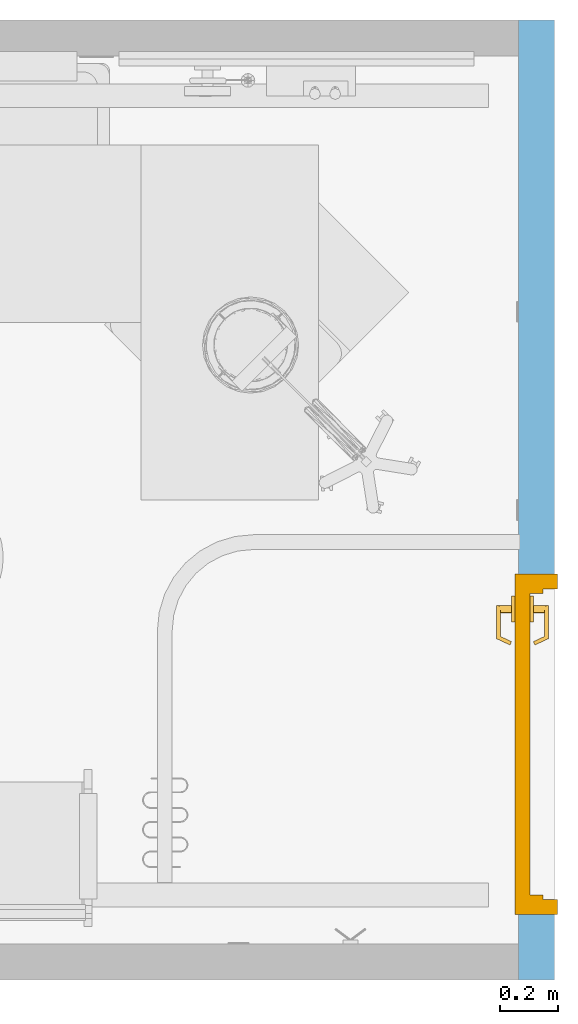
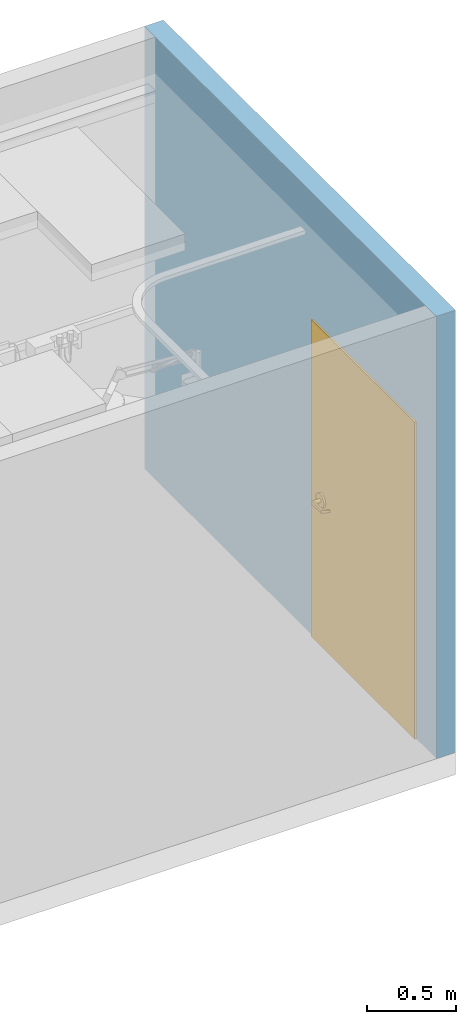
# One storey, part 2 of 8: 1 door, 1 opening, plus 1 element that does not belong to this part.
"""IFC2X3 building model written with IfcOpenShell, lengths in feet."""

from ifc_helpers import new_model, entity, si_unit, converted_unit, derived_unit, direction, frame, frame_2d, origin, place, context, subcontext, project, spatial, rectangle, extrude, faceted_brep, source, transform, mapped, material, layer, layer_set, layer_usage, type_object, type_shapes, element, fill, save


model = new_model("IFC2X3")

# Units and contexts
model_context = context("Model", 3, precision=0.0001, world=origin(), true_north=direction((6.12303176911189e-17, 1.0)))
body_context = subcontext(model_context, "Body", "Model", "MODEL_VIEW")
ifc_project = project(units=[converted_unit("LENGTHUNIT", "FOOT", entity("IfcRatioMeasure", 0.3048), si_unit("LENGTHUNIT", "METRE"), dimensions=[1, 0, 0, 0, 0, 0, 0]), converted_unit("AREAUNIT", "SQUARE FOOT", entity("IfcRatioMeasure", 0.09290304), si_unit("AREAUNIT", "SQUARE_METRE"), dimensions=[2, 0, 0, 0, 0, 0, 0]), converted_unit("VOLUMEUNIT", "CUBIC FOOT", entity("IfcRatioMeasure", 0.028316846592), si_unit("VOLUMEUNIT", "CUBIC_METRE"), dimensions=[3, 0, 0, 0, 0, 0, 0]), converted_unit("PLANEANGLEUNIT", "DEGREE", entity("IfcRatioMeasure", 0.0174532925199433), si_unit("PLANEANGLEUNIT", "RADIAN"), dimensions=[0, 0, 0, 0, 0, 0, 0]), si_unit("MASSUNIT", "GRAM", prefix="KILO"), derived_unit("MASSDENSITYUNIT", [(si_unit("MASSUNIT", "GRAM", prefix="KILO"), 1), (si_unit("LENGTHUNIT", "METRE"), -3)]), si_unit("TIMEUNIT", "SECOND"), si_unit("FREQUENCYUNIT", "HERTZ"), si_unit("THERMODYNAMICTEMPERATUREUNIT", "DEGREE_CELSIUS"), derived_unit("THERMALTRANSMITTANCEUNIT", [(si_unit("MASSUNIT", "GRAM", prefix="KILO"), 1), (si_unit("THERMODYNAMICTEMPERATUREUNIT", "KELVIN"), -1), (si_unit("TIMEUNIT", "SECOND"), -3)]), derived_unit("VOLUMETRICFLOWRATEUNIT", [(si_unit("LENGTHUNIT", "METRE"), 3), (si_unit("TIMEUNIT", "SECOND"), -1)]), si_unit("ELECTRICCURRENTUNIT", "AMPERE"), si_unit("ELECTRICVOLTAGEUNIT", "VOLT"), si_unit("POWERUNIT", "WATT"), si_unit("FORCEUNIT", "NEWTON"), si_unit("ILLUMINANCEUNIT", "LUX"), si_unit("LUMINOUSFLUXUNIT", "LUMEN"), si_unit("LUMINOUSINTENSITYUNIT", "CANDELA"), derived_unit("USERDEFINED", [(si_unit("MASSUNIT", "GRAM", prefix="KILO"), -1), (si_unit("LENGTHUNIT", "METRE"), -2), (si_unit("TIMEUNIT", "SECOND"), 3), (si_unit("LUMINOUSFLUXUNIT", "LUMEN"), 1)]), derived_unit("LINEARVELOCITYUNIT", [(si_unit("LENGTHUNIT", "METRE"), 1), (si_unit("TIMEUNIT", "SECOND"), -1)]), si_unit("PRESSUREUNIT", "PASCAL"), derived_unit("USERDEFINED", [(si_unit("LENGTHUNIT", "METRE"), -2), (si_unit("MASSUNIT", "GRAM", prefix="KILO"), 1), (si_unit("TIMEUNIT", "SECOND"), -2)])], contexts=[model_context])

# Site, building, storey
site_placement = place(None, origin())
site = spatial("IfcSite", under=ifc_project, at=site_placement, Name="Default", CompositionType="ELEMENT")
building_placement = place(site_placement, origin())
building = spatial("IfcBuilding", under=site, at=building_placement, Name="OUTPATIENT / PACT CLINIC (Ch. 265)", CompositionType="ELEMENT")
storey_placement = place(building_placement, origin())
storey = spatial("IfcBuildingStorey", under=building, at=storey_placement, Name="DATUM", CompositionType="ELEMENT", Elevation=0.0)

# Wall, opening, door
ifc_material = material(Name="<Unnamed>")
ifc_layer = layer(ifc_material, 0.40625)
ifc_layer_set = layer_set([ifc_layer], Name="Basic Wall:Interior - 4 7/8\"")
ifc_layer_usage = layer_usage(ifc_layer_set, "AXIS2", "NEGATIVE", 0.203125)
wall_type = type_object("IfcWallType", Name="Basic Wall:Interior - 4 7/8\"", PredefinedType="STANDARD", material=ifc_layer_set)
wall_placement = place(storey_placement, frame((-194.882804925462, -850.470556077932, 0.0), z_axis=(0.0, 0.0, 1.0), x_axis=(0.0, -1.0, 0.0)))
wall = element("IfcWallStandardCase", 1, at=wall_placement, inside=storey, type_object=wall_type, material=ifc_layer_usage, Name="Basic Wall:Interior - 4 7/8\"", ObjectType="Basic Wall:Interior - 4 7/8\"", context=body_context, shape_type="SweptSolid", body=[
    extrude(rectangle(XDim=10.8125, YDim=0.40625, at=frame_2d((5.40625, 9.04831765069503e-15), x_axis=(-1.0, 0.0))), origin(), (0.0, 0.0, 1.0), 10.0),
])
opening_placement = place(wall_placement, frame((10.0729166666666, 0.203125, 0.0)))
opening = element("IfcOpeningElement", 2, at=opening_placement, cuts=wall, Name="Single - Flush:42\" x 84\":1", ObjectType="Opening", context=body_context, shape_type="SweptSolid", body=[
    extrude(rectangle(XDim=3.83333333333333, YDim=7.16666666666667, at=frame_2d((3.58333333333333, 1.91666666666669), x_axis=(0.0, -1.0))), frame((0.0, 0.0, 0.0), z_axis=(0.0, -1.0, 0.0), x_axis=(0.0, 0.0, 1.0)), (0.0, 0.0, 1.0), 0.40625),
])
door_style = type_object("IfcDoorStyle", Name="42\" x 84\"", ConstructionType="NOTDEFINED", OperationType="NOTDEFINED", ParameterTakesPrecedence=False, Sizeable=False)
shared_shape = source(origin(), body_context, "Body", "Brep", [
    faceted_brep([(3.12432039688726, 0.123080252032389, 3.36458333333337), (3.1307112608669, 0.109375, 3.36458333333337), (3.1307112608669, 0.109375, 3.30208333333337), (3.12432039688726, 0.12308025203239, 3.30208333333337), (3.07149311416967, 0.23636872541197, 3.31250000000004), (3.07149311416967, 0.23636872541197, 3.3541666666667), (3.03373028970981, 0.218759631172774, 3.31250000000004), (3.0865575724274, 0.105471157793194, 3.30208333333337), (3.10416666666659, 0.0677083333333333, 3.30208333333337), (3.10416666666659, 0.067708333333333, 3.36458333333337), (3.0865575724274, 0.105471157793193, 3.36458333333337), (3.03373028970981, 0.218759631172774, 3.3541666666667), (3.10416666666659, 0.109375, 3.30208333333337), (3.10416666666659, 0.109375, 3.36458333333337), (3.43619600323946, 0.0677083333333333, 3.29168707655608), (3.44639661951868, 0.0677083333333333, 3.29262754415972), (3.45605949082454, 0.0677083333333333, 3.29602842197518), (3.46460055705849, 0.0677083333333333, 3.3016841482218), (3.47150356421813, 0.0677083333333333, 3.30925286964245), (3.47635126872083, 0.0677083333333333, 3.31827710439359), (3.47885065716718, 0.0677083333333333, 3.32821139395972), (3.47885065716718, 0.0677083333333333, 3.33845527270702), (3.47635126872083, 0.0677083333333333, 3.34838956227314), (3.47150356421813, 0.0677083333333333, 3.35741379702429), (3.46460055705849, 0.0677083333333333, 3.36498251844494), (3.45605949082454, 0.0677083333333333, 3.37063824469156), (3.44639661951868, 0.0677083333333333, 3.37403912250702), (3.43619600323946, 0.0677083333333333, 3.37497959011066), (3.42566985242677, 0.109375, 3.29338137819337), (3.43619600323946, 0.109375, 3.29168707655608), (3.43619600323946, 0.109375, 3.37497959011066), (3.42566985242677, 0.109375, 3.37328528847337), (3.41591827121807, 0.109375, 3.36897516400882), (3.40757973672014, 0.109375, 3.36233141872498), (3.40120020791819, 0.109375, 3.35378904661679), (3.3971973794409, 0.109375, 3.34390735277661), (3.39583333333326, 0.109375, 3.33333333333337), (3.3971973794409, 0.109375, 3.32275931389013), (3.40120020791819, 0.109375, 3.31287762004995), (3.40757973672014, 0.109375, 3.30433524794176), (3.41591827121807, 0.109375, 3.29769150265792), (3.44568224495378, 0.109375, 3.29247795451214), (3.45473886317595, 0.109375, 3.2954000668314), (3.46289592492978, 0.109375, 3.30030065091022), (3.46972778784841, 0.109375, 3.30692347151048), (3.47487870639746, 0.109375, 3.31492291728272), (3.47808054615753, 0.109375, 3.32388185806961), (3.47916666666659, 0.109375, 3.33333333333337), (3.47808054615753, 0.109375, 3.34278480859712), (3.47487870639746, 0.109375, 3.35174374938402), (3.46972778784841, 0.109375, 3.35974319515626), (3.46289592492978, 0.109375, 3.36636601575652), (3.45473886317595, 0.109375, 3.37126659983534), (3.44568224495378, 0.109375, 3.3741887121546), (3.47774690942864, 0.234375, 3.34411746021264), (3.47916666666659, 0.234375, 3.33333333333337), (3.47358439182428, 0.234375, 3.3541666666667), (3.46696278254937, 0.234375, 3.36279611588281), (3.45833333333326, 0.234375, 3.36941772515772), (3.4482841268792, 0.234375, 3.37358024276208), (3.43749999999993, 0.234375, 3.37500000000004), (3.42671587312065, 0.234375, 3.37358024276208), (3.41666666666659, 0.234375, 3.36941772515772), (3.40803721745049, 0.234375, 3.36279611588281), (3.40141560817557, 0.234375, 3.3541666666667), (3.39725309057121, 0.234375, 3.34411746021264), (3.39583333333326, 0.234375, 3.33333333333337), (3.39725309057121, 0.234375, 3.3225492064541), (3.40141560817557, 0.234375, 3.31250000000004), (3.40803721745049, 0.234375, 3.30387055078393), (3.41666666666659, 0.234375, 3.29724894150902), (3.42671587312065, 0.234375, 3.29308642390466), (3.43749999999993, 0.234375, 3.2916666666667), (3.4482841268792, 0.234375, 3.29308642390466), (3.45833333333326, 0.234375, 3.29724894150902), (3.46696278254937, 0.234375, 3.30387055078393), (3.47358439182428, 0.234375, 3.31250000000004), (3.47774690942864, 0.234375, 3.3225492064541), (3.36458333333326, 0.234375, 3.4596287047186), (3.33438026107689, 0.234375, 3.43645307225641), (3.39975555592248, 0.234375, 3.47419751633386), (3.43749999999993, 0.234375, 3.4791666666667), (3.47524444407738, 0.234375, 3.47419751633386), (3.51041666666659, 0.234375, 3.4596287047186), (3.54061973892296, 0.234375, 3.43645307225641), (3.56379537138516, 0.234375, 3.40625000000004), (3.57836418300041, 0.234375, 3.37107777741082), (3.58333333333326, 0.234375, 3.33333333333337), (3.57836418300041, 0.234375, 3.29558888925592), (3.56379537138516, 0.234375, 3.2604166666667), (3.54061973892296, 0.234375, 3.23021359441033), (3.51041666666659, 0.234375, 3.20703796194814), (3.47524444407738, 0.234375, 3.19246915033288), (3.43749999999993, 0.234375, 3.18750000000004), (3.39975555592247, 0.234375, 3.19246915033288), (3.36458333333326, 0.234375, 3.20703796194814), (3.33438026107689, 0.234375, 3.23021359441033), (3.3112046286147, 0.234375, 3.2604166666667), (3.29663581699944, 0.234375, 3.29558888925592), (3.29166666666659, 0.234375, 3.33333333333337), (3.29663581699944, 0.234375, 3.37107777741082), (3.3112046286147, 0.234375, 3.40625000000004), (3.33438026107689, 0.276041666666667, 3.23021359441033), (3.3112046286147, 0.276041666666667, 3.2604166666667), (3.29663581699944, 0.276041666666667, 3.29558888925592), (3.29166666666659, 0.276041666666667, 3.33333333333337), (3.29663581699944, 0.276041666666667, 3.37107777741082), (3.3112046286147, 0.276041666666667, 3.40625000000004), (3.33438026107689, 0.276041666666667, 3.43645307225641), (3.36458333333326, 0.276041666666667, 3.4596287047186), (3.39975555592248, 0.276041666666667, 3.47419751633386), (3.43749999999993, 0.276041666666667, 3.4791666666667), (3.47524444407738, 0.276041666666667, 3.47419751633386), (3.51041666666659, 0.276041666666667, 3.4596287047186), (3.54061973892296, 0.276041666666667, 3.43645307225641), (3.56379537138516, 0.276041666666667, 3.40625000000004), (3.57836418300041, 0.276041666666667, 3.37107777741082), (3.58333333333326, 0.276041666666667, 3.33333333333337), (3.57836418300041, 0.276041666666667, 3.29558888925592), (3.56379537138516, 0.276041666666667, 3.2604166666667), (3.54061973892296, 0.276041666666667, 3.23021359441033), (3.51041666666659, 0.276041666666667, 3.20703796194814), (3.47524444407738, 0.276041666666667, 3.19246915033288), (3.43749999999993, 0.276041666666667, 3.18750000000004), (3.39975555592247, 0.276041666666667, 3.19246915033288), (3.36458333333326, 0.276041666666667, 3.20703796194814)], [[[0, 1, 2, 3, 4, 5]], [[6, 7, 8, 9, 10, 11]], [[3, 2, 12, 8, 7]], [[4, 3, 7, 6]], [[5, 4, 6, 11]], [[0, 5, 11, 10]], [[1, 0, 10, 9, 13]], [[9, 8, 14, 15, 16, 17, 18, 19, 20, 21, 22, 23, 24, 25, 26, 27]], [[28, 29, 12, 2, 1, 13, 30, 31, 32, 33, 34, 35, 36, 37, 38, 39, 40]], [[14, 8, 12, 29]], [[41, 14, 29]], [[42, 15, 41]], [[17, 43, 44]], [[44, 45, 18]], [[42, 43, 16]], [[46, 19, 45]], [[42, 16, 15]], [[15, 14, 41]], [[19, 18, 45]], [[17, 44, 18]], [[17, 16, 43]], [[20, 19, 46]], [[46, 47, 20]], [[48, 21, 47]], [[49, 22, 48]], [[24, 50, 51]], [[51, 52, 25]], [[49, 50, 23]], [[53, 26, 52]], [[24, 23, 50]], [[23, 22, 49]], [[22, 21, 48]], [[27, 26, 53]], [[25, 52, 26]], [[25, 24, 51]], [[27, 53, 30]], [[47, 21, 20]], [[9, 27, 30, 13]], [[54, 48, 55]], [[56, 49, 54]], [[51, 57, 58]], [[56, 57, 50]], [[52, 58, 59]], [[54, 49, 48]], [[48, 47, 55]], [[52, 51, 58]], [[50, 57, 51]], [[50, 49, 56]], [[53, 52, 59]], [[59, 60, 53]], [[61, 30, 60]], [[62, 31, 61]], [[33, 63, 64]], [[64, 65, 34]], [[62, 63, 32]], [[66, 35, 65]], [[62, 32, 31]], [[31, 30, 61]], [[35, 34, 65]], [[33, 64, 34]], [[33, 32, 63]], [[36, 35, 66]], [[60, 30, 53]], [[67, 37, 66]], [[68, 38, 67]], [[40, 69, 70]], [[68, 69, 39]], [[28, 70, 71]], [[67, 38, 37]], [[37, 36, 66]], [[28, 40, 70]], [[39, 69, 40]], [[39, 38, 68]], [[29, 28, 71]], [[71, 72, 29]], [[73, 41, 72]], [[74, 42, 73]], [[44, 75, 76]], [[76, 77, 45]], [[74, 75, 43]], [[55, 46, 77]], [[74, 43, 42]], [[42, 41, 73]], [[46, 45, 77]], [[44, 76, 45]], [[44, 43, 75]], [[47, 46, 55]], [[72, 41, 29]], [[62, 61, 78]], [[79, 62, 78]], [[62, 79, 63]], [[61, 80, 78]], [[80, 61, 60]], [[80, 60, 81]], [[59, 81, 60]], [[81, 59, 82]], [[59, 58, 82]], [[83, 82, 58]], [[57, 83, 58]], [[83, 57, 84]], [[56, 84, 57]], [[85, 84, 56]], [[54, 85, 56]], [[86, 85, 54]], [[86, 54, 55]], [[86, 55, 87]], [[87, 55, 77]], [[87, 77, 88]], [[88, 77, 76]], [[88, 76, 89]], [[90, 89, 76]], [[90, 76, 75]], [[75, 91, 90]], [[75, 74, 91]], [[92, 91, 74]], [[73, 92, 74]], [[73, 93, 92]], [[93, 73, 72]], [[72, 94, 93]], [[71, 94, 72]], [[94, 71, 95]], [[70, 95, 71]], [[96, 95, 70]], [[96, 70, 69]], [[96, 69, 97]], [[97, 69, 68]], [[97, 68, 98]], [[67, 98, 68]], [[99, 98, 67]], [[67, 66, 99]], [[66, 100, 99]], [[100, 66, 65]], [[100, 65, 101]], [[65, 64, 101]], [[63, 101, 64]], [[79, 101, 63]], [[102, 103, 104, 105, 106, 107, 108, 109, 110, 111, 112, 113, 114, 115, 116, 117, 118, 119, 120, 121, 122, 123, 124, 125]], [[116, 86, 87, 117]], [[115, 85, 86, 116]], [[83, 84, 114, 113]], [[115, 114, 84, 85]], [[82, 83, 113, 112]], [[81, 82, 112, 111]], [[110, 80, 81, 111]], [[109, 78, 80, 110]], [[101, 79, 108, 107]], [[109, 108, 79, 78]], [[100, 101, 107, 106]], [[99, 100, 106, 105]], [[104, 98, 99, 105]], [[103, 97, 98, 104]], [[95, 96, 102, 125]], [[103, 102, 96, 97]], [[94, 95, 125, 124]], [[93, 94, 124, 123]], [[122, 92, 93, 123]], [[121, 91, 92, 122]], [[89, 90, 120, 119]], [[121, 120, 90, 91]], [[88, 89, 119, 118]], [[87, 88, 118, 117]]]),
    faceted_brep([(3.12432039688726, 0.595669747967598, 3.30208333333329), (3.13071126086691, 0.609374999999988, 3.30208333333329), (3.13071126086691, 0.609374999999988, 3.36458333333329), (3.12432039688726, 0.595669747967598, 3.36458333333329), (3.07149311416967, 0.482381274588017, 3.35416666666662), (3.07149311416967, 0.482381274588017, 3.31249999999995), (3.03373028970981, 0.499990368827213, 3.35416666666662), (3.0865575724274, 0.613278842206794, 3.36458333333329), (3.10416666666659, 0.651041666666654, 3.36458333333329), (3.10416666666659, 0.651041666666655, 3.30208333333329), (3.0865575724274, 0.613278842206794, 3.30208333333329), (3.03373028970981, 0.499990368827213, 3.31249999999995), (3.10416666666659, 0.609374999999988, 3.36458333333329), (3.10416666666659, 0.609374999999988, 3.30208333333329), (3.43619600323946, 0.651041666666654, 3.37497959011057), (3.44639661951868, 0.651041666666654, 3.37403912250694), (3.45605949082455, 0.651041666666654, 3.37063824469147), (3.46460055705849, 0.651041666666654, 3.36498251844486), (3.47150356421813, 0.651041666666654, 3.35741379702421), (3.47635126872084, 0.651041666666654, 3.34838956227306), (3.47885065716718, 0.651041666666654, 3.33845527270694), (3.47885065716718, 0.651041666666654, 3.32821139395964), (3.47635126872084, 0.651041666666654, 3.31827710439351), (3.47150356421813, 0.651041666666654, 3.30925286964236), (3.4646005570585, 0.651041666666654, 3.30168414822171), (3.45605949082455, 0.651041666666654, 3.2960284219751), (3.44639661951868, 0.651041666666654, 3.29262754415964), (3.43619600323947, 0.651041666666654, 3.291687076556), (3.42566985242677, 0.609374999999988, 3.37328528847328), (3.43619600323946, 0.609374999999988, 3.37497959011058), (3.43619600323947, 0.609374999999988, 3.291687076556), (3.42566985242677, 0.609374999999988, 3.29338137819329), (3.41591827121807, 0.609374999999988, 3.29769150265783), (3.40757973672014, 0.609374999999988, 3.30433524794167), (3.40120020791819, 0.609374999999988, 3.31287762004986), (3.3971973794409, 0.609374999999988, 3.32275931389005), (3.39583333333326, 0.609374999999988, 3.33333333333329), (3.3971973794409, 0.609374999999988, 3.34390735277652), (3.40120020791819, 0.609374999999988, 3.35378904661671), (3.40757973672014, 0.609374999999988, 3.3623314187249), (3.41591827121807, 0.609374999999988, 3.36897516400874), (3.44568224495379, 0.609374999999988, 3.37418871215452), (3.45473886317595, 0.609374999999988, 3.37126659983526), (3.46289592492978, 0.609374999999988, 3.36636601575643), (3.46972778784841, 0.609374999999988, 3.35974319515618), (3.47487870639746, 0.609374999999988, 3.35174374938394), (3.47808054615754, 0.609374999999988, 3.34278480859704), (3.47916666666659, 0.609374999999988, 3.33333333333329), (3.47808054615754, 0.609374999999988, 3.32388185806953), (3.47487870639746, 0.609374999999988, 3.31492291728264), (3.46972778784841, 0.609374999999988, 3.30692347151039), (3.46289592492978, 0.609374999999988, 3.30030065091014), (3.45473886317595, 0.609374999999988, 3.29540006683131), (3.44568224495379, 0.609374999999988, 3.29247795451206), (3.47774690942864, 0.484374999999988, 3.32254920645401), (3.47916666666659, 0.484374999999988, 3.33333333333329), (3.47358439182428, 0.484374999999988, 3.31249999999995), (3.46696278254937, 0.484374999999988, 3.30387055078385), (3.45833333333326, 0.484374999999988, 3.29724894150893), (3.4482841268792, 0.484374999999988, 3.29308642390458), (3.43749999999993, 0.484374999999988, 3.29166666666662), (3.42671587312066, 0.484374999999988, 3.29308642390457), (3.41666666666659, 0.484374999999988, 3.29724894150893), (3.40803721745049, 0.484374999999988, 3.30387055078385), (3.40141560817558, 0.484374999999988, 3.31249999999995), (3.39725309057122, 0.484374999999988, 3.32254920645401), (3.39583333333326, 0.484374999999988, 3.33333333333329), (3.39725309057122, 0.484374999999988, 3.34411746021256), (3.40141560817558, 0.484374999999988, 3.35416666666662), (3.40803721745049, 0.484374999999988, 3.36279611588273), (3.41666666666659, 0.484374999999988, 3.36941772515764), (3.42671587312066, 0.484374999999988, 3.373580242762), (3.43749999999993, 0.484374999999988, 3.37499999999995), (3.4482841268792, 0.484374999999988, 3.373580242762), (3.45833333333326, 0.484374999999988, 3.36941772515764), (3.46696278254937, 0.484374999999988, 3.36279611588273), (3.47358439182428, 0.484374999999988, 3.35416666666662), (3.47774690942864, 0.484374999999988, 3.34411746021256), (3.36458333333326, 0.484374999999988, 3.20703796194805), (3.33438026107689, 0.484374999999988, 3.23021359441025), (3.39975555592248, 0.484374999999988, 3.1924691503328), (3.43749999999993, 0.484374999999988, 3.18749999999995), (3.47524444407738, 0.484374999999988, 3.1924691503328), (3.51041666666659, 0.484374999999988, 3.20703796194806), (3.54061973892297, 0.484374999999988, 3.23021359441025), (3.56379537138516, 0.484374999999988, 3.26041666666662), (3.57836418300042, 0.484374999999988, 3.29558888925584), (3.58333333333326, 0.484374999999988, 3.33333333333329), (3.57836418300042, 0.484374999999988, 3.37107777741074), (3.56379537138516, 0.484374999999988, 3.40624999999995), (3.54061973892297, 0.484374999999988, 3.43645307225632), (3.51041666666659, 0.484374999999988, 3.45962870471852), (3.47524444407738, 0.484374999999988, 3.47419751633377), (3.43749999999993, 0.484374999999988, 3.47916666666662), (3.39975555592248, 0.484374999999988, 3.47419751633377), (3.36458333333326, 0.484374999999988, 3.45962870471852), (3.33438026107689, 0.484374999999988, 3.43645307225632), (3.3112046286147, 0.484374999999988, 3.40624999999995), (3.29663581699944, 0.484374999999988, 3.37107777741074), (3.29166666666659, 0.484374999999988, 3.33333333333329), (3.29663581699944, 0.484374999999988, 3.29558888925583), (3.3112046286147, 0.484374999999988, 3.26041666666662), (3.33438026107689, 0.442708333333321, 3.43645307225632), (3.3112046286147, 0.442708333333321, 3.40624999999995), (3.29663581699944, 0.442708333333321, 3.37107777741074), (3.29166666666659, 0.442708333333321, 3.33333333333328), (3.29663581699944, 0.442708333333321, 3.29558888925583), (3.3112046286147, 0.442708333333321, 3.26041666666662), (3.33438026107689, 0.442708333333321, 3.23021359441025), (3.36458333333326, 0.442708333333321, 3.20703796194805), (3.39975555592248, 0.442708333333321, 3.1924691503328), (3.43749999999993, 0.442708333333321, 3.18749999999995), (3.47524444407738, 0.442708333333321, 3.1924691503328), (3.51041666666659, 0.442708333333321, 3.20703796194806), (3.54061973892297, 0.442708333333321, 3.23021359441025), (3.56379537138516, 0.442708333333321, 3.26041666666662), (3.57836418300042, 0.442708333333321, 3.29558888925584), (3.58333333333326, 0.442708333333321, 3.33333333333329), (3.57836418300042, 0.442708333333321, 3.37107777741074), (3.56379537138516, 0.442708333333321, 3.40624999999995), (3.54061973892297, 0.442708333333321, 3.43645307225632), (3.51041666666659, 0.442708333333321, 3.45962870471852), (3.47524444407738, 0.442708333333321, 3.47419751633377), (3.43749999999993, 0.442708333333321, 3.47916666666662), (3.39975555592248, 0.442708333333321, 3.47419751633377), (3.36458333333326, 0.442708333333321, 3.45962870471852)], [[[0, 1, 2, 3, 4, 5]], [[6, 7, 8, 9, 10, 11]], [[3, 2, 12, 8, 7]], [[4, 3, 7, 6]], [[5, 4, 6, 11]], [[0, 5, 11, 10]], [[1, 0, 10, 9, 13]], [[9, 8, 14, 15, 16, 17, 18, 19, 20, 21, 22, 23, 24, 25, 26, 27]], [[28, 29, 12, 2, 1, 13, 30, 31, 32, 33, 34, 35, 36, 37, 38, 39, 40]], [[14, 8, 12, 29]], [[41, 14, 29]], [[42, 15, 41]], [[17, 43, 44]], [[44, 45, 18]], [[42, 43, 16]], [[46, 19, 45]], [[42, 16, 15]], [[15, 14, 41]], [[19, 18, 45]], [[17, 44, 18]], [[17, 16, 43]], [[20, 19, 46]], [[46, 47, 20]], [[48, 21, 47]], [[49, 22, 48]], [[24, 50, 51]], [[51, 52, 25]], [[49, 50, 23]], [[53, 26, 52]], [[24, 23, 50]], [[23, 22, 49]], [[22, 21, 48]], [[27, 26, 53]], [[25, 52, 26]], [[25, 24, 51]], [[27, 53, 30]], [[47, 21, 20]], [[9, 27, 30, 13]], [[54, 48, 55]], [[56, 49, 54]], [[51, 57, 58]], [[56, 57, 50]], [[52, 58, 59]], [[54, 49, 48]], [[48, 47, 55]], [[52, 51, 58]], [[50, 57, 51]], [[50, 49, 56]], [[53, 52, 59]], [[59, 60, 53]], [[61, 30, 60]], [[62, 31, 61]], [[33, 63, 64]], [[64, 65, 34]], [[62, 63, 32]], [[66, 35, 65]], [[62, 32, 31]], [[31, 30, 61]], [[35, 34, 65]], [[33, 64, 34]], [[33, 32, 63]], [[36, 35, 66]], [[60, 30, 53]], [[67, 37, 66]], [[68, 38, 67]], [[40, 69, 70]], [[68, 69, 39]], [[28, 70, 71]], [[67, 38, 37]], [[37, 36, 66]], [[28, 40, 70]], [[39, 69, 40]], [[39, 38, 68]], [[29, 28, 71]], [[71, 72, 29]], [[73, 41, 72]], [[74, 42, 73]], [[44, 75, 76]], [[76, 77, 45]], [[74, 75, 43]], [[55, 46, 77]], [[74, 43, 42]], [[42, 41, 73]], [[46, 45, 77]], [[44, 76, 45]], [[44, 43, 75]], [[47, 46, 55]], [[72, 41, 29]], [[62, 61, 78]], [[79, 62, 78]], [[62, 79, 63]], [[61, 80, 78]], [[80, 61, 60]], [[80, 60, 81]], [[59, 81, 60]], [[81, 59, 82]], [[59, 58, 82]], [[83, 82, 58]], [[57, 83, 58]], [[83, 57, 84]], [[56, 84, 57]], [[85, 84, 56]], [[54, 85, 56]], [[86, 85, 54]], [[86, 54, 55]], [[86, 55, 87]], [[87, 55, 77]], [[87, 77, 88]], [[88, 77, 76]], [[88, 76, 89]], [[90, 89, 76]], [[90, 76, 75]], [[75, 91, 90]], [[75, 74, 91]], [[92, 91, 74]], [[73, 92, 74]], [[73, 93, 92]], [[93, 73, 72]], [[72, 94, 93]], [[71, 94, 72]], [[94, 71, 95]], [[70, 95, 71]], [[96, 95, 70]], [[96, 70, 69]], [[96, 69, 97]], [[97, 69, 68]], [[97, 68, 98]], [[67, 98, 68]], [[99, 98, 67]], [[67, 66, 99]], [[66, 100, 99]], [[100, 66, 65]], [[100, 65, 101]], [[65, 64, 101]], [[63, 101, 64]], [[79, 101, 63]], [[102, 103, 104, 105, 106, 107, 108, 109, 110, 111, 112, 113, 114, 115, 116, 117, 118, 119, 120, 121, 122, 123, 124, 125]], [[116, 86, 87, 117]], [[115, 85, 86, 116]], [[83, 84, 114, 113]], [[115, 114, 84, 85]], [[82, 83, 113, 112]], [[81, 82, 112, 111]], [[110, 80, 81, 111]], [[109, 78, 80, 110]], [[101, 79, 108, 107]], [[109, 108, 79, 78]], [[100, 101, 107, 106]], [[99, 100, 106, 105]], [[104, 98, 99, 105]], [[103, 97, 98, 104]], [[95, 96, 102, 125]], [[103, 102, 96, 97]], [[94, 95, 125, 124]], [[93, 94, 124, 123]], [[122, 92, 93, 123]], [[121, 91, 92, 122]], [[89, 90, 120, 119]], [[121, 120, 90, 91]], [[88, 89, 119, 118]], [[87, 88, 118, 117]]]),
    faceted_brep([(0.16666666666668, 0.442708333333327, 7.0), (3.66666666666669, 0.442708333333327, 7.0), (3.66666666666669, 0.442708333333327, 0.0), (0.16666666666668, 0.442708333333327, 0.0), (0.16666666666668, 0.276041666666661, 7.0), (0.16666666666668, 0.276041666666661, 0.0), (3.66666666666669, 0.276041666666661, 0.0), (3.66666666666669, 0.276041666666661, 7.0)], [[[0, 1, 2, 3]], [[4, 5, 6, 7]], [[1, 0, 4, 7]], [[2, 1, 7, 6]], [[3, 2, 6, 5]], [[0, 3, 5, 4]]]),
    faceted_brep([(0.166666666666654, 0.442708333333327, 0.0), (0.166666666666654, 0.276041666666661, 0.0), (0.218749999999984, 0.276041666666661, 0.0), (0.218749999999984, 0.130208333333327, 0.0), (0.166666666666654, 0.130208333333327, 0.0), (0.166666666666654, -0.0364583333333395, 0.0), (0.0, -0.0364583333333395, 0.0), (0.0, 0.442708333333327, 0.0), (0.166666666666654, 0.442708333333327, 7.0), (0.166666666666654, 0.276041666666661, 7.0), (3.66666666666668, 0.276041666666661, 7.0), (3.66666666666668, 0.276041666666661, 0.0), (3.61458333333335, 0.27604166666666, 0.0), (3.61458333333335, 0.276041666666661, 6.94791666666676), (0.218749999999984, 0.276041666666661, 6.94791666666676), (0.218749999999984, 0.130208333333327, 6.94791666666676), (3.61458333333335, 0.130208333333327, 6.94791666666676), (3.61458333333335, 0.130208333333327, 0.0), (3.66666666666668, 0.130208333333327, 0.0), (3.66666666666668, 0.130208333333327, 7.0), (0.166666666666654, 0.130208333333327, 7.0), (0.166666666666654, -0.0364583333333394, 7.0), (3.66666666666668, -0.0364583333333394, 7.0), (3.66666666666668, -0.0364583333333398, 0.0), (3.83333333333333, -0.0364583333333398, 0.0), (3.83333333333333, -0.0364583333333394, 7.16666666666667), (0.0, -0.0364583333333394, 7.16666666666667), (0.0, 0.442708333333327, 7.16666666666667), (3.83333333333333, 0.442708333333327, 7.16666666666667), (3.83333333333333, 0.442708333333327, 0.0), (3.66666666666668, 0.442708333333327, 0.0), (3.66666666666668, 0.442708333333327, 7.0)], [[[0, 1, 2, 3, 4, 5, 6, 7]], [[1, 0, 8, 9]], [[2, 1, 9, 10, 11, 12, 13, 14]], [[3, 2, 14, 15]], [[4, 3, 15, 16, 17, 18, 19, 20]], [[5, 4, 20, 21]], [[6, 5, 21, 22, 23, 24, 25, 26]], [[7, 6, 26, 27]], [[0, 7, 27, 28, 29, 30, 31, 8]], [[30, 11, 10, 31]], [[30, 29, 24, 23, 18, 17, 12, 11]], [[12, 17, 16, 13]], [[19, 18, 23, 22]], [[29, 28, 25, 24]], [[10, 9, 8, 31]], [[15, 14, 13, 16]], [[21, 20, 19, 22]], [[25, 28, 27, 26]]]),
])
type_shapes(door_style, [shared_shape])
door_placement = place(opening_placement, frame((0.0, 0.0, 0.0), z_axis=(0.0, 0.0, 1.0), x_axis=(-1.0, 0.0, 0.0)))
door = element("IfcDoor", 3, at=door_placement, inside=storey, type_object=door_style, Name="Single - Flush:42\" x 84\"", ObjectType="42\" x 84\"", OverallHeight=7.16666666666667, OverallWidth=3.83333333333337, context=body_context, shape_type="MappedRepresentation", body=[
    mapped(shared_shape, transform((0.0, 0.0, 0.0), scale=1.0)),
])
fill(opening, door)

save(model, "model.ifc")
